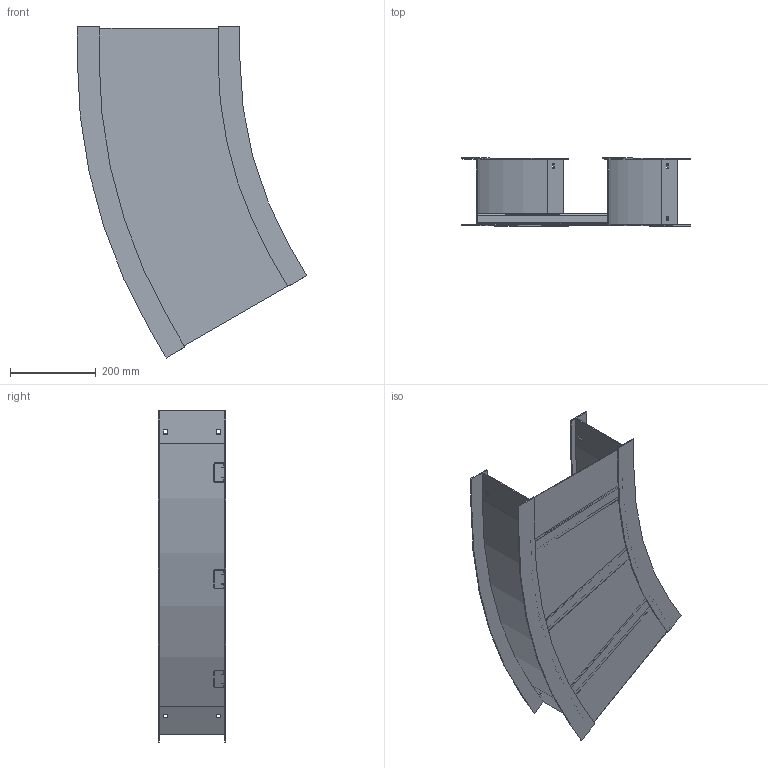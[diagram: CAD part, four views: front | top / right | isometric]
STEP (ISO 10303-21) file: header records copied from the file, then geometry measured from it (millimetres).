
FILE_DESCRIPTION((''),'2;1');
FILE_NAME('AHF612SHB3036_ASM','2010-01-28T',('erouzier'),(''),'PRO/ENGINEER BY PARAMETRIC TECHNOLOGY CORPORATION, 2008510','PRO/ENGINEER BY PARAMETRIC TECHNOLOGY CORPORATION, 2008510','');
FILE_SCHEMA(('CONFIG_CONTROL_DESIGN'));
Length unit declared in the file: inch
Products named in the file (5): CDS001812-6-30-36-I; CDS001812-6-30-48-O; CDS002159L12; ED04588-12-36-30; AHF612SHB3036_ASM
Assembly tree (6 placements, depth 2):
  AHF612SHB3036_ASM
    CDS001812-6-30-36-I
    CDS001812-6-30-48-O
    CDS002159L12  x3
    ED04588-12-36-30
Bounding box: 534.5 x 157.99 x 773.44 mm (x, y, z)
Volume: 1262161.3 mm3; surface area: 1378224.6 mm2
Topology: 6 solids, 6 shells, 184 faces, 516 edges, 344 vertices
Faces by surface type: plane 137, cylinder 47
Entity records: 4149 total; most frequent: CARTESIAN_POINT 715, ORIENTED_EDGE 696, DIRECTION 668, EDGE_CURVE 348, VECTOR 298, LINE 298, VERTEX_POINT 232, AXIS2_PLACEMENT_3D 185
